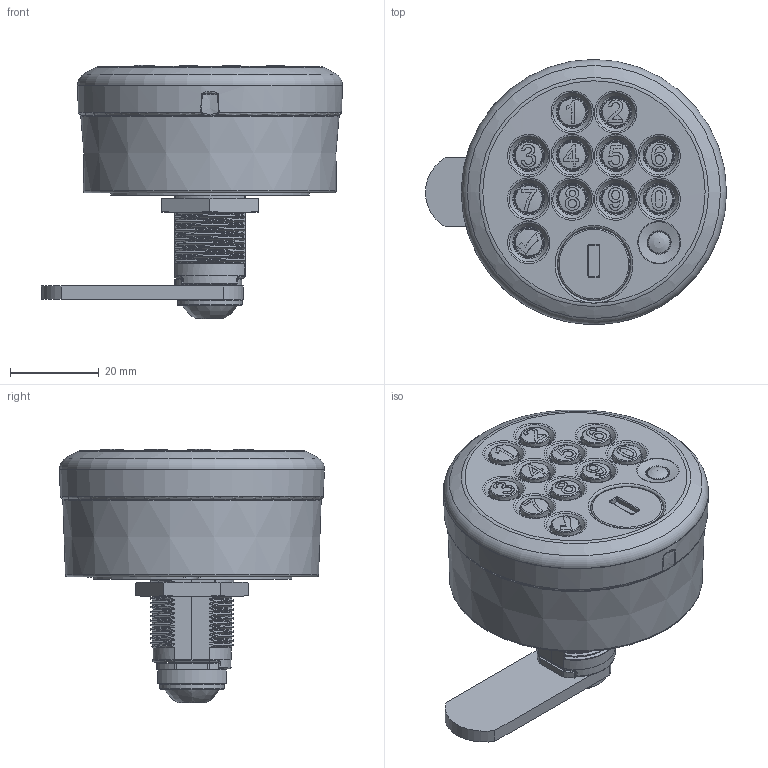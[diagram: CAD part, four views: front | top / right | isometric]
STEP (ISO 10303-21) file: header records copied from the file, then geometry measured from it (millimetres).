
FILE_DESCRIPTION(/* description */ (''),/* implementation_level */ '2;1');
FILE_NAME(/* name */ 'A1904-3D-Kunden.stp',/* time_stamp */ '2020-11-10T10:42:12+01:00',/* author */ (''),/* organization */ (''),/* preprocessor_version */ 'ST-DEVELOPER v16.7',/* originating_system */ 'SIEMENS PLM Software NX 12.0',/* authorisation */ '');
FILE_SCHEMA (('AUTOMOTIVE_DESIGN { 1 0 10303 214 3 1 1 1 }'));
Length unit declared in the file: millimetre
Products named in the file (1): Karl4DBCD6FCkq4h
Bounding box: 67.91 x 59.81 x 57.2 mm (x, y, z)
Volume: 82069.3 mm3; surface area: 19266.4 mm2
Topology: 5 solids, 66 shells, 2211 faces, 5585 edges, 3452 vertices
Faces by surface type: plane 668, bspline 566, cylinder 515, torus 202, cone 126, extrusion 69, sphere 53, revolution 12
Full cylindrical faces by diameter (mm): 1 x11, 2 x2, 5 x1, 14.5 x2
Entity records: 109311 total; most frequent: CARTESIAN_POINT 50638, ORIENTED_EDGE 10268, DIRECTION 8020, EDGE_CURVE 5134, VERTEX_POINT 3304, AXIS2_PLACEMENT_3D 3212, EDGE_LOOP 2457, ADVANCED_FACE 2207
